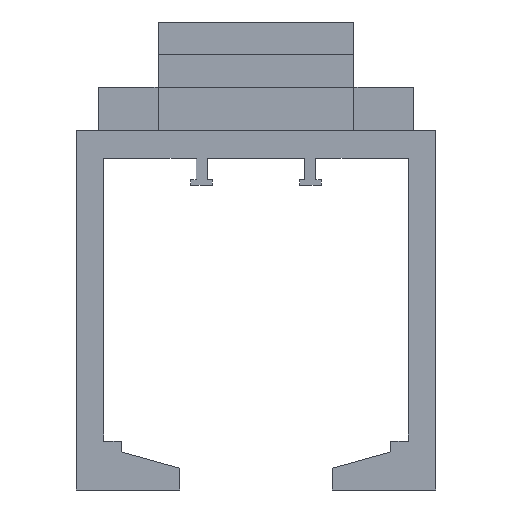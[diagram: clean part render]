
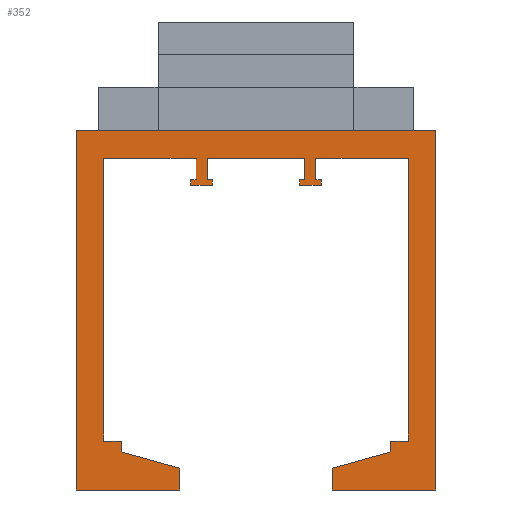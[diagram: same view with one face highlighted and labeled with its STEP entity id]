
A CAD part, left-side view. The second image highlights one B-rep face of the part: STEP entity #352.
In plain terms, the highlighted planar face has unit normal (-1, 0, 0).
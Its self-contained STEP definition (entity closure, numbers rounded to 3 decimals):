
#352=ADVANCED_FACE('',(#729),#730,.F.);
#729=FACE_OUTER_BOUND('',#1128,.T.);
#730=PLANE('',#1129);
#1128=EDGE_LOOP('',(#2099,#2100,#2101,#2102,#2103,#2104,#2105,#2106,#2107,#2108,#2109,#2110,#2111,#2112,#2113,#2114,#2115,#2116,#2117,#2118,#2119,#2120,#2121,#2122,#2123,#2124,#2125,#2126,#2127,#2128,#2129,#2130,#2131,#2132,#2133,#2134));
#1129=AXIS2_PLACEMENT_3D('',#2135,#2136,#2137);
#2099=ORIENTED_EDGE('',*,*,#2774,.T.);
#2100=ORIENTED_EDGE('',*,*,#2790,.T.);
#2101=ORIENTED_EDGE('',*,*,#2791,.T.);
#2102=ORIENTED_EDGE('',*,*,#2782,.T.);
#2103=ORIENTED_EDGE('',*,*,#2529,.F.);
#2104=ORIENTED_EDGE('',*,*,#2576,.T.);
#2105=ORIENTED_EDGE('',*,*,#2553,.T.);
#2106=ORIENTED_EDGE('',*,*,#2558,.F.);
#2107=ORIENTED_EDGE('',*,*,#2547,.F.);
#2108=ORIENTED_EDGE('',*,*,#2470,.T.);
#2109=ORIENTED_EDGE('',*,*,#2792,.T.);
#2110=ORIENTED_EDGE('',*,*,#2793,.T.);
#2111=ORIENTED_EDGE('',*,*,#2794,.T.);
#2112=ORIENTED_EDGE('',*,*,#2795,.T.);
#2113=ORIENTED_EDGE('',*,*,#2796,.T.);
#2114=ORIENTED_EDGE('',*,*,#2797,.T.);
#2115=ORIENTED_EDGE('',*,*,#2798,.F.);
#2116=ORIENTED_EDGE('',*,*,#2799,.T.);
#2117=ORIENTED_EDGE('',*,*,#2800,.T.);
#2118=ORIENTED_EDGE('',*,*,#2801,.T.);
#2119=ORIENTED_EDGE('',*,*,#2802,.T.);
#2120=ORIENTED_EDGE('',*,*,#2803,.T.);
#2121=ORIENTED_EDGE('',*,*,#2804,.T.);
#2122=ORIENTED_EDGE('',*,*,#2805,.T.);
#2123=ORIENTED_EDGE('',*,*,#2806,.F.);
#2124=ORIENTED_EDGE('',*,*,#2785,.F.);
#2125=ORIENTED_EDGE('',*,*,#2807,.F.);
#2126=ORIENTED_EDGE('',*,*,#2808,.T.);
#2127=ORIENTED_EDGE('',*,*,#2769,.T.);
#2128=ORIENTED_EDGE('',*,*,#2809,.F.);
#2129=ORIENTED_EDGE('',*,*,#2810,.F.);
#2130=ORIENTED_EDGE('',*,*,#2811,.F.);
#2131=ORIENTED_EDGE('',*,*,#2812,.T.);
#2132=ORIENTED_EDGE('',*,*,#2813,.T.);
#2133=ORIENTED_EDGE('',*,*,#2814,.T.);
#2134=ORIENTED_EDGE('',*,*,#2777,.T.);
#2135=CARTESIAN_POINT('',(0.0,5.0,-3.5));
#2136=DIRECTION('',(1.0,0.0,0.0));
#2137=DIRECTION('',(0.0,0.0,-1.0));
#2470=EDGE_CURVE('',#2971,#2969,#2972,.T.);
#2529=EDGE_CURVE('',#3059,#3061,#3062,.T.);
#2547=EDGE_CURVE('',#2971,#3089,#3090,.T.);
#2553=EDGE_CURVE('',#3095,#3097,#3099,.T.);
#2558=EDGE_CURVE('',#3089,#3097,#3106,.T.);
#2576=EDGE_CURVE('',#3059,#3095,#3128,.T.);
#2769=EDGE_CURVE('',#3412,#3410,#3413,.T.);
#2774=EDGE_CURVE('',#3421,#3419,#3422,.T.);
#2777=EDGE_CURVE('',#3425,#3421,#3426,.T.);
#2782=EDGE_CURVE('',#3433,#3061,#3434,.T.);
#2785=EDGE_CURVE('',#3437,#3438,#3439,.T.);
#2790=EDGE_CURVE('',#3419,#3446,#3447,.T.);
#2791=EDGE_CURVE('',#3446,#3433,#3448,.T.);
#2792=EDGE_CURVE('',#2969,#3449,#3450,.T.);
#2793=EDGE_CURVE('',#3449,#3451,#3452,.T.);
#2794=EDGE_CURVE('',#3451,#3453,#3454,.T.);
#2795=EDGE_CURVE('',#3453,#3455,#3456,.T.);
#2796=EDGE_CURVE('',#3455,#3457,#3458,.T.);
#2797=EDGE_CURVE('',#3457,#3459,#3460,.T.);
#2798=EDGE_CURVE('',#3461,#3459,#3462,.T.);
#2799=EDGE_CURVE('',#3461,#3463,#3464,.T.);
#2800=EDGE_CURVE('',#3463,#3465,#3466,.T.);
#2801=EDGE_CURVE('',#3465,#3467,#3468,.T.);
#2802=EDGE_CURVE('',#3467,#3469,#3470,.T.);
#2803=EDGE_CURVE('',#3469,#3471,#3472,.T.);
#2804=EDGE_CURVE('',#3471,#3473,#3474,.T.);
#2805=EDGE_CURVE('',#3473,#3475,#3476,.T.);
#2806=EDGE_CURVE('',#3438,#3475,#3477,.T.);
#2807=EDGE_CURVE('',#3478,#3437,#3479,.T.);
#2808=EDGE_CURVE('',#3478,#3412,#3480,.T.);
#2809=EDGE_CURVE('',#3481,#3410,#3482,.T.);
#2810=EDGE_CURVE('',#3483,#3481,#3484,.T.);
#2811=EDGE_CURVE('',#3485,#3483,#3486,.T.);
#2812=EDGE_CURVE('',#3485,#3487,#3488,.T.);
#2813=EDGE_CURVE('',#3487,#3489,#3490,.T.);
#2814=EDGE_CURVE('',#3489,#3425,#3491,.T.);
#2969=VERTEX_POINT('',#3697);
#2971=VERTEX_POINT('',#3700);
#2972=LINE('',#3701,#3702);
#3059=VERTEX_POINT('',#3814);
#3061=VERTEX_POINT('',#3817);
#3062=LINE('',#3818,#3819);
#3089=VERTEX_POINT('',#3854);
#3090=LINE('',#3855,#3856);
#3095=VERTEX_POINT('',#3862);
#3097=VERTEX_POINT('',#3864);
#3099=LINE('',#3866,#3867);
#3106=LINE('',#3875,#3876);
#3128=LINE('',#3904,#3905);
#3410=VERTEX_POINT('',#4324);
#3412=VERTEX_POINT('',#4327);
#3413=LINE('',#4328,#4329);
#3419=VERTEX_POINT('',#4337);
#3421=VERTEX_POINT('',#4340);
#3422=LINE('',#4341,#4342);
#3425=VERTEX_POINT('',#4346);
#3426=LINE('',#4347,#4348);
#3433=VERTEX_POINT('',#4358);
#3434=LINE('',#4359,#4360);
#3437=VERTEX_POINT('',#4364);
#3438=VERTEX_POINT('',#4365);
#3439=LINE('',#4366,#4367);
#3446=VERTEX_POINT('',#4377);
#3447=LINE('',#4378,#4379);
#3448=LINE('',#4380,#4381);
#3449=VERTEX_POINT('',#4382);
#3450=LINE('',#4383,#4384);
#3451=VERTEX_POINT('',#4385);
#3452=LINE('',#4386,#4387);
#3453=VERTEX_POINT('',#4388);
#3454=LINE('',#4389,#4390);
#3455=VERTEX_POINT('',#4391);
#3456=LINE('',#4392,#4393);
#3457=VERTEX_POINT('',#4394);
#3458=LINE('',#4395,#4396);
#3459=VERTEX_POINT('',#4397);
#3460=LINE('',#4398,#4399);
#3461=VERTEX_POINT('',#4400);
#3462=LINE('',#4401,#4402);
#3463=VERTEX_POINT('',#4403);
#3464=LINE('',#4404,#4405);
#3465=VERTEX_POINT('',#4406);
#3466=LINE('',#4407,#4408);
#3467=VERTEX_POINT('',#4409);
#3468=LINE('',#4410,#4411);
#3469=VERTEX_POINT('',#4412);
#3470=LINE('',#4413,#4414);
#3471=VERTEX_POINT('',#4415);
#3472=LINE('',#4416,#4417);
#3473=VERTEX_POINT('',#4418);
#3474=LINE('',#4419,#4420);
#3475=VERTEX_POINT('',#4421);
#3476=LINE('',#4422,#4423);
#3477=LINE('',#4424,#4425);
#3478=VERTEX_POINT('',#4426);
#3479=LINE('',#4427,#4428);
#3480=LINE('',#4429,#4430);
#3481=VERTEX_POINT('',#4431);
#3482=LINE('',#4432,#4433);
#3483=VERTEX_POINT('',#4434);
#3484=LINE('',#4435,#4436);
#3485=VERTEX_POINT('',#4437);
#3486=LINE('',#4438,#4439);
#3487=VERTEX_POINT('',#4440);
#3488=LINE('',#4441,#4442);
#3489=VERTEX_POINT('',#4443);
#3490=LINE('',#4444,#4445);
#3491=LINE('',#4446,#4447);
#3697=CARTESIAN_POINT('',(0.0,5.5,-4.5));
#3700=CARTESIAN_POINT('',(0.,5.5,-2.505));
#3701=CARTESIAN_POINT('',(0.0,5.5,-2.5));
#3702=VECTOR('',#4646,1.0);
#3814=CARTESIAN_POINT('',(0.0,5.5,-2.5));
#3817=CARTESIAN_POINT('',(0.0,14.0,-2.5));
#3818=CARTESIAN_POINT('',(0.0,-14.0,-2.5));
#3819=VECTOR('',#4727,1.0);
#3854=CARTESIAN_POINT('',(0.,5.505,-2.505));
#3855=CARTESIAN_POINT('',(0.,5.5,-2.505));
#3856=VECTOR('',#4748,1.0);
#3862=CARTESIAN_POINT('',(0.0,5.5,-2.503));
#3864=CARTESIAN_POINT('',(0.0,5.505,-2.503));
#3866=CARTESIAN_POINT('',(0.0,5.5,-2.503));
#3867=VECTOR('',#4759,1.0);
#3875=CARTESIAN_POINT('',(0.0,5.505,-2.505));
#3876=VECTOR('',#4767,1.0);
#3904=CARTESIAN_POINT('',(0.0,5.5,-2.5));
#3905=VECTOR('',#4786,1.0);
#4324=CARTESIAN_POINT('',(0.0,-7.0,-31.0));
#4327=CARTESIAN_POINT('',(0.0,-12.375,-29.5));
#4328=CARTESIAN_POINT('',(0.0,-4.993,-31.56));
#4329=VECTOR('',#4925,1.0);
#4337=CARTESIAN_POINT('',(0.0,12.375,-29.5));
#4340=CARTESIAN_POINT('',(0.0,7.0,-31.0));
#4341=CARTESIAN_POINT('',(0.0,12.32,-29.515));
#4342=VECTOR('',#4929,1.0);
#4346=CARTESIAN_POINT('',(0.0,7.0,-33.0));
#4347=CARTESIAN_POINT('',(0.0,7.0,-33.0));
#4348=VECTOR('',#4931,1.0);
#4358=CARTESIAN_POINT('',(0.0,14.0,-28.5));
#4359=CARTESIAN_POINT('',(0.0,14.0,-28.5));
#4360=VECTOR('',#4935,1.0);
#4364=CARTESIAN_POINT('',(0.0,-14.0,-28.5));
#4365=CARTESIAN_POINT('',(0.0,-14.0,-2.5));
#4366=CARTESIAN_POINT('',(0.0,-14.0,-28.5));
#4367=VECTOR('',#4937,1.0);
#4377=CARTESIAN_POINT('',(0.0,12.375,-28.5));
#4378=CARTESIAN_POINT('',(0.0,12.375,-29.26));
#4379=VECTOR('',#4941,1.0);
#4380=CARTESIAN_POINT('',(0.0,12.375,-28.5));
#4381=VECTOR('',#4942,1.0);
#4382=CARTESIAN_POINT('',(0.0,6.0,-4.5));
#4383=CARTESIAN_POINT('',(0.0,4.0,-4.5));
#4384=VECTOR('',#4943,1.0);
#4385=CARTESIAN_POINT('',(0.0,6.0,-5.0));
#4386=CARTESIAN_POINT('',(0.0,6.0,-4.5));
#4387=VECTOR('',#4944,1.0);
#4388=CARTESIAN_POINT('',(0.0,4.0,-5.0));
#4389=CARTESIAN_POINT('',(0.0,6.0,-5.0));
#4390=VECTOR('',#4945,1.0);
#4391=CARTESIAN_POINT('',(0.0,4.0,-4.5));
#4392=CARTESIAN_POINT('',(0.0,4.0,-5.0));
#4393=VECTOR('',#4946,1.0);
#4394=CARTESIAN_POINT('',(0.0,4.5,-4.5));
#4395=CARTESIAN_POINT('',(0.0,4.0,-4.5));
#4396=VECTOR('',#4947,1.0);
#4397=CARTESIAN_POINT('',(0.0,4.5,-2.5));
#4398=CARTESIAN_POINT('',(0.0,4.5,-4.5));
#4399=VECTOR('',#4948,1.0);
#4400=CARTESIAN_POINT('',(0.0,-4.5,-2.5));
#4401=CARTESIAN_POINT('',(0.0,-14.0,-2.5));
#4402=VECTOR('',#4949,1.0);
#4403=CARTESIAN_POINT('',(0.0,-4.5,-4.5));
#4404=CARTESIAN_POINT('',(0.0,-4.5,-2.5));
#4405=VECTOR('',#4950,1.0);
#4406=CARTESIAN_POINT('',(0.0,-4.0,-4.5));
#4407=CARTESIAN_POINT('',(0.0,-6.0,-4.5));
#4408=VECTOR('',#4951,1.0);
#4409=CARTESIAN_POINT('',(0.0,-4.0,-5.0));
#4410=CARTESIAN_POINT('',(0.0,-4.0,-4.5));
#4411=VECTOR('',#4952,1.0);
#4412=CARTESIAN_POINT('',(0.0,-6.0,-5.0));
#4413=CARTESIAN_POINT('',(0.0,-4.0,-5.0));
#4414=VECTOR('',#4953,1.0);
#4415=CARTESIAN_POINT('',(0.0,-6.0,-4.5));
#4416=CARTESIAN_POINT('',(0.0,-6.0,-5.0));
#4417=VECTOR('',#4954,1.0);
#4418=CARTESIAN_POINT('',(0.0,-5.5,-4.5));
#4419=CARTESIAN_POINT('',(0.0,-6.0,-4.5));
#4420=VECTOR('',#4955,1.0);
#4421=CARTESIAN_POINT('',(0.0,-5.5,-2.5));
#4422=CARTESIAN_POINT('',(0.0,-5.5,-4.5));
#4423=VECTOR('',#4956,1.0);
#4424=CARTESIAN_POINT('',(0.0,-14.0,-2.5));
#4425=VECTOR('',#4957,1.0);
#4426=CARTESIAN_POINT('',(0.0,-12.375,-28.5));
#4427=CARTESIAN_POINT('',(0.0,-12.375,-28.5));
#4428=VECTOR('',#4958,1.0);
#4429=CARTESIAN_POINT('',(0.0,-12.375,-16.5));
#4430=VECTOR('',#4959,1.0);
#4431=CARTESIAN_POINT('',(0.0,-7.0,-33.0));
#4432=CARTESIAN_POINT('',(0.0,-7.0,-33.0));
#4433=VECTOR('',#4960,1.0);
#4434=CARTESIAN_POINT('',(0.0,-16.5,-33.0));
#4435=CARTESIAN_POINT('',(0.0,-16.5,-33.0));
#4436=VECTOR('',#4961,1.0);
#4437=CARTESIAN_POINT('',(0.0,-16.5,0.0));
#4438=CARTESIAN_POINT('',(0.0,-16.5,0.0));
#4439=VECTOR('',#4962,1.0);
#4440=CARTESIAN_POINT('',(0.0,16.5,0.0));
#4441=CARTESIAN_POINT('',(0.0,0.0,0.0));
#4442=VECTOR('',#4963,1.0);
#4443=CARTESIAN_POINT('',(0.0,16.5,-33.0));
#4444=CARTESIAN_POINT('',(0.0,16.5,0.0));
#4445=VECTOR('',#4964,1.0);
#4446=CARTESIAN_POINT('',(0.0,16.5,-33.0));
#4447=VECTOR('',#4965,1.0);
#4646=DIRECTION('',(0.0,0.0,-1.0));
#4727=DIRECTION('',(0.0,1.0,0.0));
#4748=DIRECTION('',(0.0,1.0,0.));
#4759=DIRECTION('',(0.0,1.0,0.));
#4767=DIRECTION('',(0.,0.,1.0));
#4786=DIRECTION('',(0.0,0.0,-1.0));
#4925=DIRECTION('',(0.0,0.963,-0.269));
#4929=DIRECTION('',(0.0,0.963,0.269));
#4931=DIRECTION('',(0.0,0.0,1.0));
#4935=DIRECTION('',(0.0,0.0,1.0));
#4937=DIRECTION('',(0.0,0.0,1.0));
#4941=DIRECTION('',(0.0,0.0,1.0));
#4942=DIRECTION('',(0.0,1.0,0.0));
#4943=DIRECTION('',(0.0,1.0,0.0));
#4944=DIRECTION('',(0.0,0.0,-1.0));
#4945=DIRECTION('',(0.0,-1.0,0.0));
#4946=DIRECTION('',(0.0,0.0,1.0));
#4947=DIRECTION('',(0.0,1.0,0.0));
#4948=DIRECTION('',(0.0,0.0,1.0));
#4949=DIRECTION('',(0.0,1.0,0.0));
#4950=DIRECTION('',(0.0,0.0,-1.0));
#4951=DIRECTION('',(0.0,1.0,0.0));
#4952=DIRECTION('',(0.0,0.0,-1.0));
#4953=DIRECTION('',(0.0,-1.0,0.0));
#4954=DIRECTION('',(0.0,0.0,1.0));
#4955=DIRECTION('',(0.0,1.0,0.0));
#4956=DIRECTION('',(0.0,0.0,1.0));
#4957=DIRECTION('',(0.0,1.0,0.0));
#4958=DIRECTION('',(0.0,-1.0,0.0));
#4959=DIRECTION('',(0.0,0.0,-1.0));
#4960=DIRECTION('',(0.0,0.0,1.0));
#4961=DIRECTION('',(0.0,1.0,0.0));
#4962=DIRECTION('',(0.0,0.0,-1.0));
#4963=DIRECTION('',(0.0,1.0,0.0));
#4964=DIRECTION('',(0.0,0.0,-1.0));
#4965=DIRECTION('',(0.0,-1.0,0.0));
